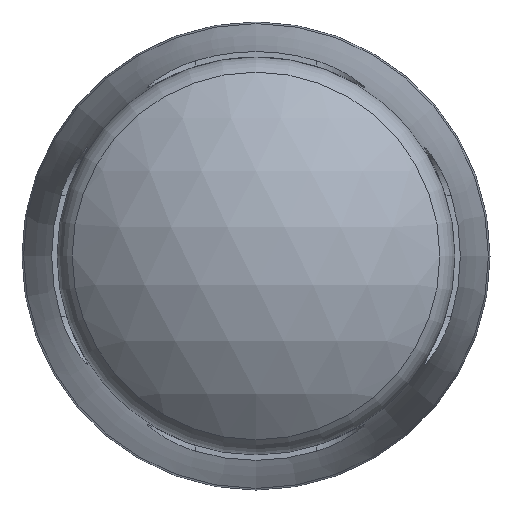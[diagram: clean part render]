
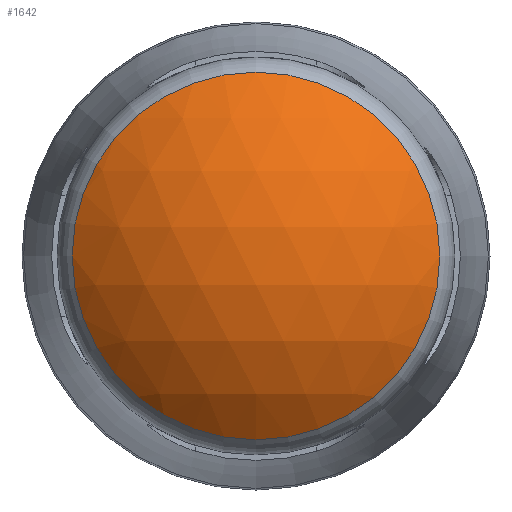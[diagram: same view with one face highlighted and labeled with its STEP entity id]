
A CAD part, left-side view. The second image highlights one B-rep face of the part: STEP entity #1642.
In plain terms, the highlighted spherical face has radius 49.198 mm.
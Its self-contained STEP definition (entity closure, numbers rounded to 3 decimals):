
#14=SPHERICAL_SURFACE('',#1819,49.198);
#202=FACE_OUTER_BOUND('',#298,.T.);
#298=EDGE_LOOP('',(#1188,#1189));
#597=CIRCLE('',#1816,33.395);
#598=CIRCLE('',#1817,33.395);
#713=VERTEX_POINT('',#2907);
#714=VERTEX_POINT('',#2909);
#893=EDGE_CURVE('',#713,#714,#597,.T.);
#894=EDGE_CURVE('',#714,#713,#598,.T.);
#1188=ORIENTED_EDGE('',*,*,#894,.F.);
#1189=ORIENTED_EDGE('',*,*,#893,.F.);
#1642=ADVANCED_FACE('',(#202),#14,.T.);
#1816=AXIS2_PLACEMENT_3D('',#2910,#2118,#2119);
#1817=AXIS2_PLACEMENT_3D('',#2911,#2120,#2121);
#1819=AXIS2_PLACEMENT_3D('',#2913,#2124,#2125);
#2118=DIRECTION('center_axis',(1.,0.,0.));
#2119=DIRECTION('ref_axis',(0.,-1.,0.));
#2120=DIRECTION('center_axis',(1.,0.,0.));
#2121=DIRECTION('ref_axis',(0.,-1.,0.));
#2124=DIRECTION('center_axis',(0.,0.,1.));
#2125=DIRECTION('ref_axis',(-1.,-0.004,0.));
#2907=CARTESIAN_POINT('',(13.07,0.,33.395));
#2909=CARTESIAN_POINT('',(13.07,33.395,0.));
#2910=CARTESIAN_POINT('Origin',(13.07,0.,
0.));
#2911=CARTESIAN_POINT('Origin',(13.07,0.,
0.));
#2913=CARTESIAN_POINT('Origin',(49.198,0.,0.));
